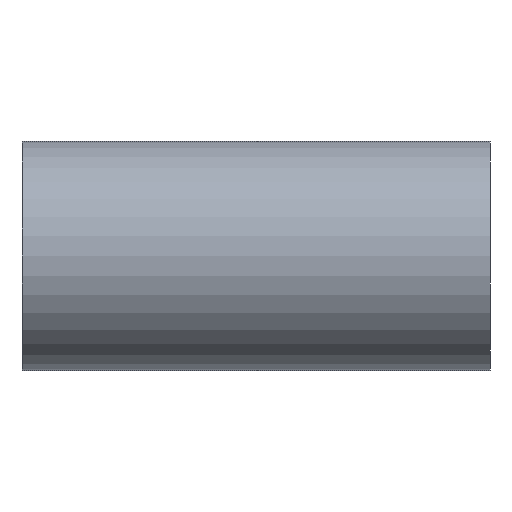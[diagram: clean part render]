
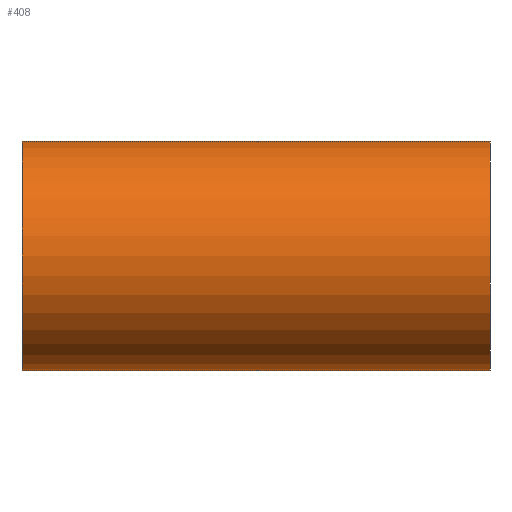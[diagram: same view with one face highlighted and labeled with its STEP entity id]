
A CAD part, front view. The second image highlights one B-rep face of the part: STEP entity #408.
In plain terms, the highlighted cylindrical face has radius 11.5 mm (diameter 23 mm), a full revolution.
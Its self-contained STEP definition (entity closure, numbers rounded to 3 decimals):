
#16=FACE_BOUND('',#102,.T.);
#17=FACE_BOUND('',#103,.T.);
#26=ELLIPSE('',#433,16.263,11.5);
#27=ELLIPSE('',#434,16.263,11.5);
#29=CYLINDRICAL_SURFACE('',#431,11.5);
#75=FACE_OUTER_BOUND('',#101,.T.);
#101=EDGE_LOOP('',(#343));
#102=EDGE_LOOP('',(#344,#345));
#103=EDGE_LOOP('',(#346));
#124=CIRCLE('',#432,11.5);
#125=CIRCLE('',#435,11.5);
#195=VERTEX_POINT('',#13202);
#196=VERTEX_POINT('',#13204);
#197=VERTEX_POINT('',#13205);
#198=VERTEX_POINT('',#13208);
#253=EDGE_CURVE('',#195,#195,#124,.T.);
#254=EDGE_CURVE('',#196,#197,#26,.T.);
#255=EDGE_CURVE('',#197,#196,#27,.T.);
#256=EDGE_CURVE('',#198,#198,#125,.T.);
#343=ORIENTED_EDGE('',*,*,#253,.F.);
#344=ORIENTED_EDGE('',*,*,#254,.T.);
#345=ORIENTED_EDGE('',*,*,#255,.T.);
#346=ORIENTED_EDGE('',*,*,#256,.F.);
#408=ADVANCED_FACE('',(#75,#16,#17),#29,.T.);
#431=AXIS2_PLACEMENT_3D('',#13201,#483,#484);
#432=AXIS2_PLACEMENT_3D('',#13203,#485,#486);
#433=AXIS2_PLACEMENT_3D('',#13206,#487,#488);
#434=AXIS2_PLACEMENT_3D('',#13207,#489,#490);
#435=AXIS2_PLACEMENT_3D('',#13209,#491,#492);
#483=DIRECTION('center_axis',(1.,0.,0.));
#484=DIRECTION('ref_axis',(0.,-1.,0.));
#485=DIRECTION('center_axis',(-1.,0.,0.));
#486=DIRECTION('ref_axis',(0.,-1.,0.));
#487=DIRECTION('center_axis',(-0.707,-0.707,0.));
#488=DIRECTION('ref_axis',(0.707,-0.707,0.));
#489=DIRECTION('center_axis',(0.707,-0.707,0.));
#490=DIRECTION('ref_axis',(0.707,0.707,0.));
#491=DIRECTION('center_axis',(1.,0.,0.));
#492=DIRECTION('ref_axis',(0.,-1.,0.));
#13201=CARTESIAN_POINT('Origin',(0.,0.,0.));
#13202=CARTESIAN_POINT('',(-23.5,11.5,0.));
#13203=CARTESIAN_POINT('Origin',(-23.5,0.,0.));
#13204=CARTESIAN_POINT('',(0.,0.,11.5));
#13205=CARTESIAN_POINT('',(0.,0.,-11.5));
#13206=CARTESIAN_POINT('Origin',(0.,0.,0.));
#13207=CARTESIAN_POINT('Origin',(0.,0.,0.));
#13208=CARTESIAN_POINT('',(23.5,11.5,0.));
#13209=CARTESIAN_POINT('Origin',(23.5,0.,0.));
